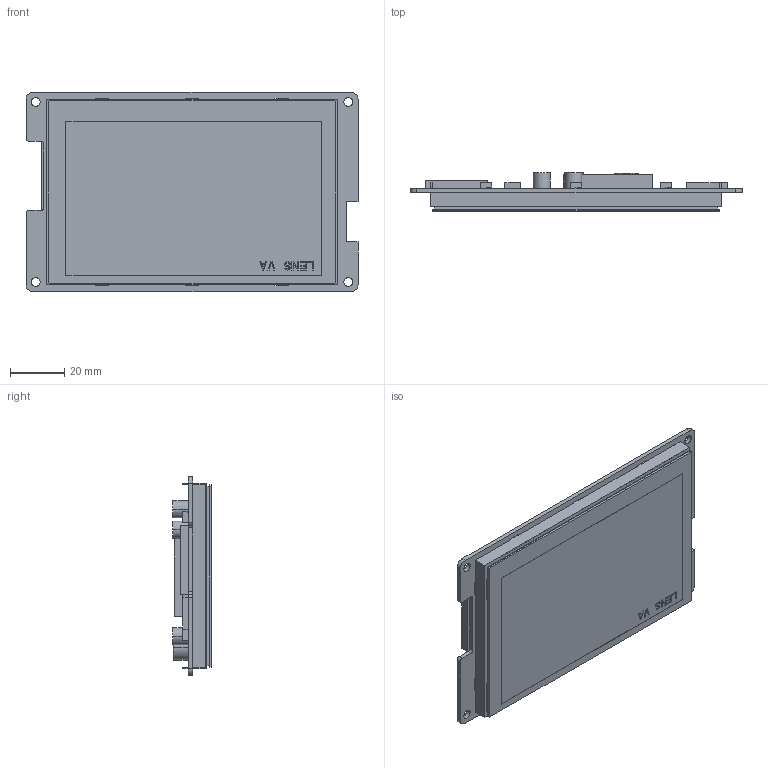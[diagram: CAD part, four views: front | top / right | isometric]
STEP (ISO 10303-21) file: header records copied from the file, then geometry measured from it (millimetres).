
FILE_DESCRIPTION((''),'2;1');
FILE_NAME('DMG80480C043-01W_ASM','2023-02-15T',('Administrator'),(''),'PRO/ENGINEER BY PARAMETRIC TECHNOLOGY CORPORATION, 2014320','PRO/ENGINEER BY PARAMETRIC TECHNOLOGY CORPORATION, 2014320','');
FILE_SCHEMA(('CONFIG_CONTROL_DESIGN','SHAPE_APPEARANCE_LAYERS_GROUPS'));
Length unit declared in the file: millimetre
Products named in the file (5): TK043000; 043IPS; PCB; CTP; DMG80480C043-01W_ASM
Assembly tree (4 placements, depth 2):
  DMG80480C043-01W_ASM
    TK043000
    043IPS
    PCB
    CTP
Bounding box: 121.92 x 14.08 x 73.15 mm (x, y, z)
Volume: 53694.3 mm3; surface area: 57456.1 mm2
Topology: 4 solids, 4 shells, 387 faces, 1070 edges, 713 vertices
Faces by surface type: plane 324, cylinder 63
Entity records: 13635 total; most frequent: CARTESIAN_POINT 2181, ORIENTED_EDGE 2140, DIRECTION 1988, EDGE_CURVE 1070, VECTOR 942, LINE 942, VERTEX_POINT 713, AXIS2_PLACEMENT_3D 523
